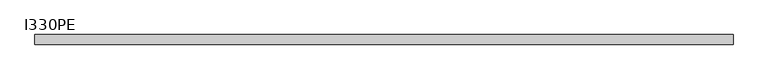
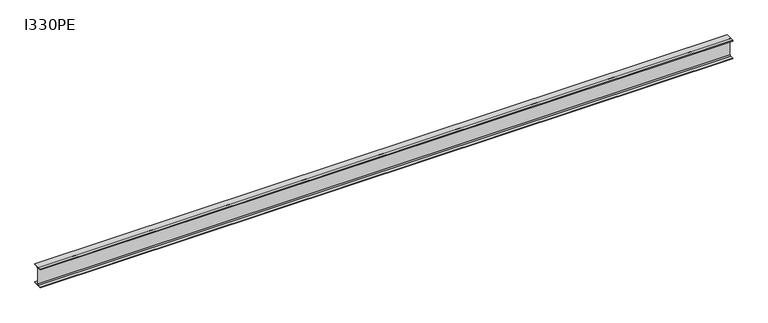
"""IFC4 building model written with IfcOpenShell, lengths in millimetres: beam geometry, RPLN IPE - Dwuteowniki równoległościenne : I330PE."""

from ifc_helpers import new_model, si_unit, point, frame, frame_2d, origin, place, context, project, spatial, polyline, circle_curve, trimmed, segment, composite_curve, outline, extrude, source, transform, mapped, element, save


def i330pe_6d48d478(model_context):
    return source(origin(), model_context, "Body", "SweptSolid", [
        extrude(outline(composite_curve([segment(polyline([(80.0, -153.5), (80.0, -165.0), (-80.0, -165.0), (-80.0, -153.5), (-21.75, -153.5)]), True, "CONTINUOUS"), segment(trimmed(circle_curve(frame_2d((-21.75, -135.5)), 18.0), [point((-21.75, -153.5))], [point((-3.75, -135.5))], True, "CARTESIAN"), True, "CONTINUOUS"), segment(polyline([(-3.75, -135.5), (-3.75, 135.5)]), True, "CONTINUOUS"), segment(trimmed(circle_curve(frame_2d((-21.75, 135.5)), 18.0), [point((-3.75, 135.5))], [point((-21.75, 153.5))], True, "CARTESIAN"), True, "CONTINUOUS"), segment(polyline([(-21.75, 153.5), (-80.0, 153.5), (-80.0, 165.0), (80.0, 165.0), (80.0, 153.5), (21.75, 153.5)]), True, "CONTINUOUS"), segment(trimmed(circle_curve(frame_2d((21.75, 135.5)), 18.0), [point((21.75, 153.5))], [point((3.75, 135.5))], True, "CARTESIAN"), True, "CONTINUOUS"), segment(polyline([(3.75, 135.5), (3.75, -135.5)]), True, "CONTINUOUS"), segment(trimmed(circle_curve(frame_2d((21.75, -135.5)), 18.0), [point((3.75, -135.5))], [point((21.75, -153.5))], True, "CARTESIAN"), True, "CONTINUOUS"), segment(polyline([(21.75, -153.5), (80.0, -153.5)]), True, "CONTINUOUS")], self_intersect=False)), frame((-5809.5, 0.0, 0.0), z_axis=(1.0, 0.0, 0.0), x_axis=(0.0, 1.0, 0.0)), (0.0, 0.0, 1.0), 11619.0),
    ])


if __name__ == "__main__":
    model = new_model("IFC4")
    model_context = context("Model", 3, world=origin())
    ifc_project = project(units=[si_unit("LENGTHUNIT", "METRE", prefix="MILLI")], contexts=[model_context])
    site = spatial("IfcSite", under=ifc_project)
    building = spatial("IfcBuilding", under=site)
    placement = place(None, origin())
    i330pe_shape = i330pe_6d48d478(model_context)
    element("IfcBeam", 1, ObjectType="RPLN IPE - Dwuteowniki równoległościenne : I330PE", at=placement, inside=building, context=model_context, shape_type="MappedRepresentation", body=[
        mapped(i330pe_shape, transform((0.0, 0.0, 0.0), x_axis=(1.0, 0.0, 0.0), y_axis=(0.0, 1.0, 0.0), z_axis=(0.0, 0.0, 1.0))),
    ])
    save(model, "model.ifc")
